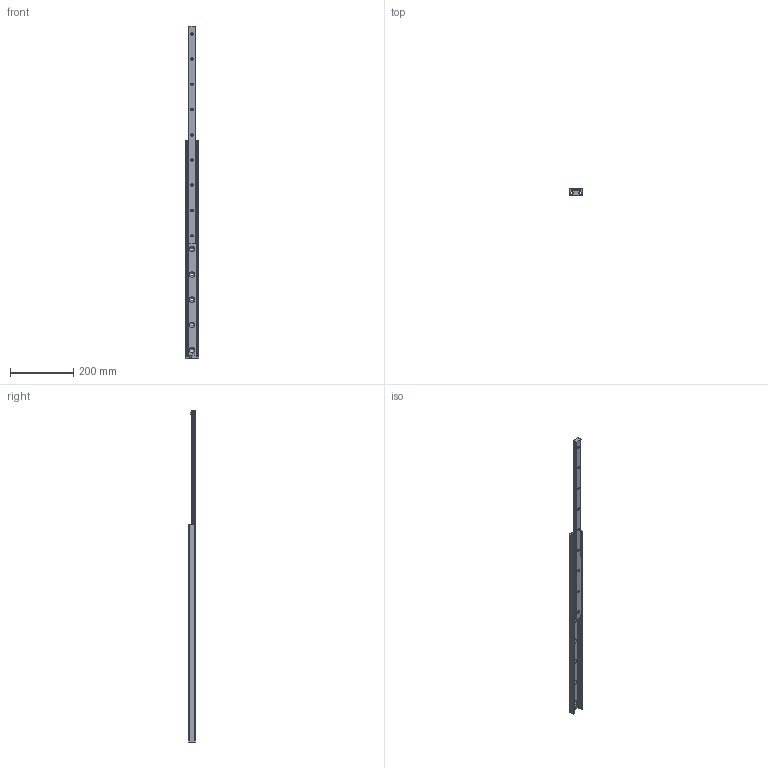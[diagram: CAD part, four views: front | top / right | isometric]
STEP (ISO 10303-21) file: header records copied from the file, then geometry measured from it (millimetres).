
FILE_DESCRIPTION(('STEP AP214'),'1');
FILE_NAME('rail_asn43-690_01.stp','2017-06-06T10:16:44',('TraceParts'),('TraceParts S.A.'),'Spatial InterOp 3D',' ',' ');
FILE_SCHEMA(('automotive_design'));
Length unit declared in the file: millimetre
Products named in the file (2): rail_asn43-690_01_1; rail_asn43-690_01_2
Bounding box: 43 x 22.01 x 1053 mm (x, y, z)
Volume: 420059.6 mm3; surface area: 163290.4 mm2
Topology: 2 solids, 2 shells, 167 faces, 420 edges, 262 vertices
Faces by surface type: cylinder 67, cone 54, plane 46
Entity records: 5112 total; most frequent: DIRECTION 946, CARTESIAN_POINT 851, ORIENTED_EDGE 840, EDGE_CURVE 420, AXIS2_PLACEMENT_3D 357, VERTEX_POINT 262, LINE 232, VECTOR 232
